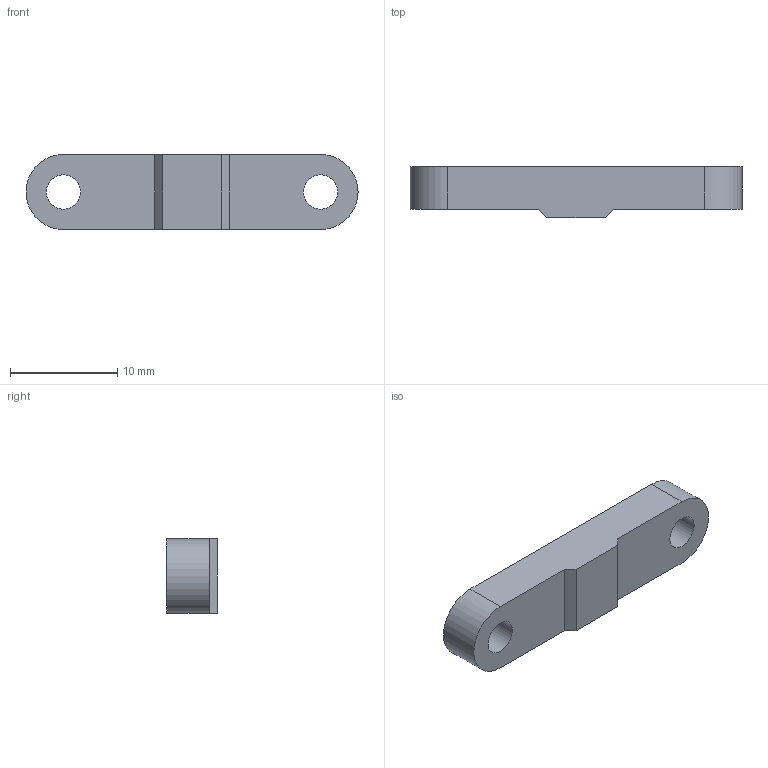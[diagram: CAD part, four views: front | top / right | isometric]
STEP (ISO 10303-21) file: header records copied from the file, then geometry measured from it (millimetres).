
FILE_DESCRIPTION(/* description */ (''),/* implementation_level */ '2;1');
FILE_NAME(/* name */ '/Users/valerian/Desktop/Piping Holder.step',/* time_stamp */ '2020-10-24T17:44:39+02:00',/* author */ (''),/* organization */ (''),/* preprocessor_version */ 'ST-DEVELOPER v18.1',/* originating_system */ 'Autodesk Translation Framework v9.3.0.1241',/* authorisation */ '');
FILE_SCHEMA (('AUTOMOTIVE_DESIGN { 1 0 10303 214 3 1 1 }'));
Length unit declared in the file: millimetre
Products named in the file (1): Piping Holder
Bounding box: 31 x 4.75 x 7 mm (x, y, z)
Volume: 764.7 mm3; surface area: 743.1 mm2
Topology: 1 solids, 1 shells, 14 faces, 34 edges, 22 vertices
Faces by surface type: plane 8, cylinder 4, cone 2
Full cylindrical faces by diameter (mm): 3.2 x2
Entity records: 453 total; most frequent: DIRECTION 74, CARTESIAN_POINT 71, ORIENTED_EDGE 68, EDGE_CURVE 34, AXIS2_PLACEMENT_3D 25, LINE 24, VECTOR 24, VERTEX_POINT 22
